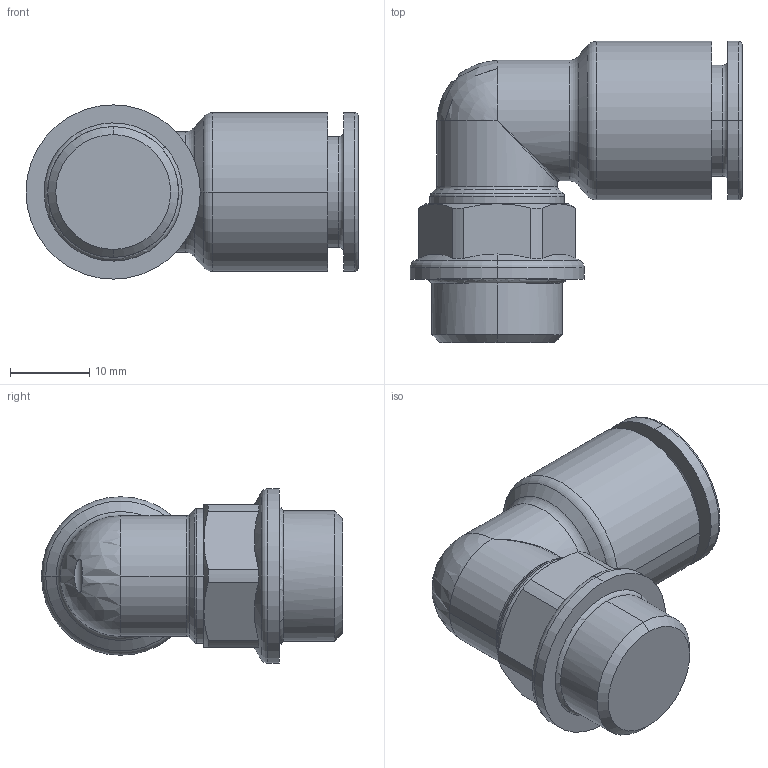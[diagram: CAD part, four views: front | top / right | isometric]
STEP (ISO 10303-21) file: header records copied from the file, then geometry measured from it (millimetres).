
FILE_DESCRIPTION (( 'STEP AP214' ), '1' );
FILE_NAME ('5411600025A.STEP', '2024-09-20T06:49:54', ( '' ), ( '' ), 'SwSTEP 2.0', 'SolidWorks 2020', '' );
FILE_SCHEMA (( 'AUTOMOTIVE_DESIGN' ));
Length unit declared in the file: millimetre
Products named in the file (1): 5411600025A
Bounding box: 41.9 x 38 x 22 mm (x, y, z)
Volume: 11543.1 mm3; surface area: 5235.4 mm2
Topology: 1 solids, 1 shells, 170 faces, 424 edges, 268 vertices
Faces by surface type: plane 83, bspline 27, cylinder 25, cone 18, torus 16, sphere 1
Entity records: 8424 total; most frequent: CARTESIAN_POINT 2662, ORIENTED_EDGE 840, DIRECTION 724, EDGE_CURVE 420, VERTEX_POINT 268, LINE 248, VECTOR 248, AXIS2_PLACEMENT_3D 238
